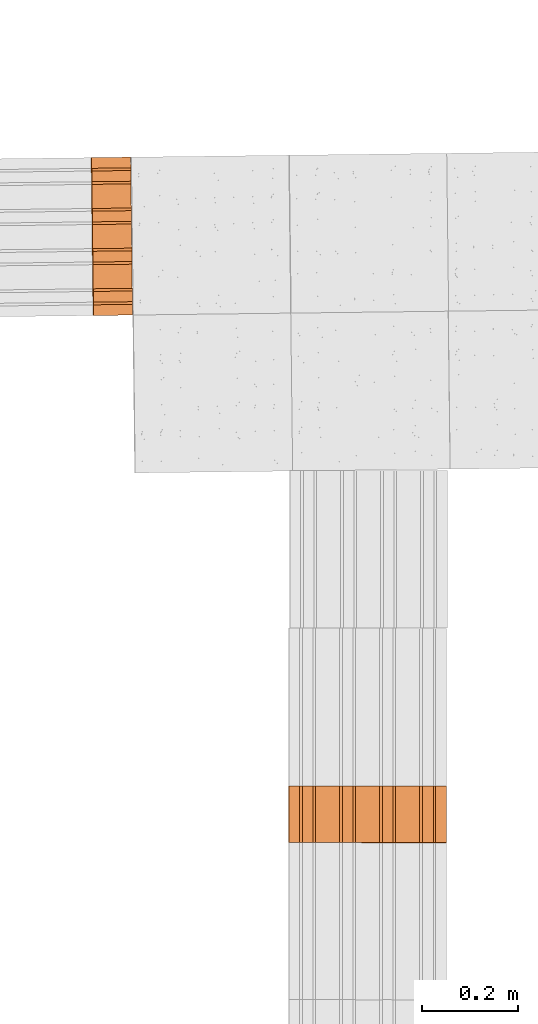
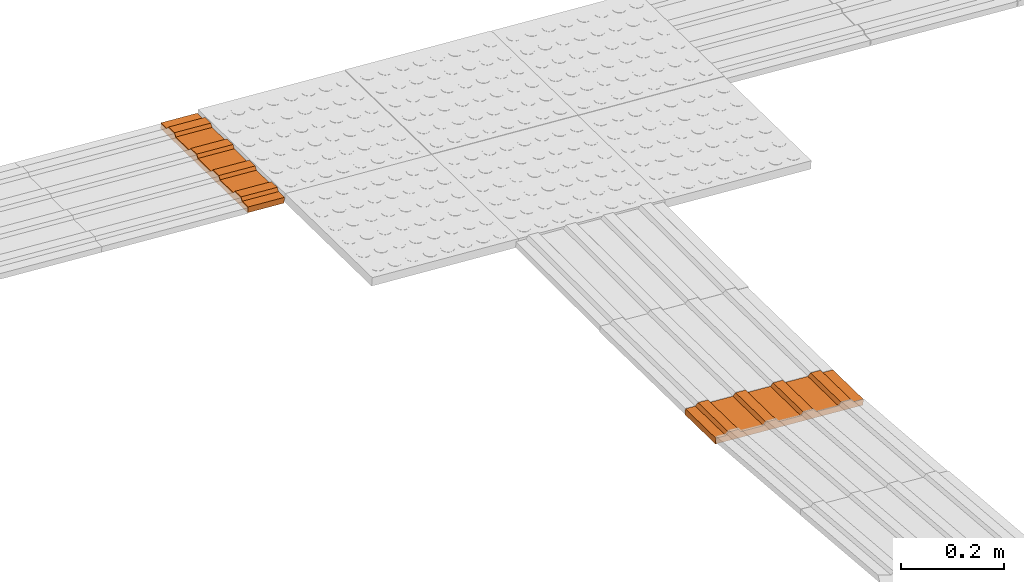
# One storey, part 237 of 237: 2 proxies.
"""IFC2X3 building model written with IfcOpenShell, lengths in millimetres."""

from ifc_helpers import new_model, entity, si_unit, converted_unit, derived_unit, money_unit, direction, frame, origin_with_axes, place, context, subcontext, project, spatial, open_shell, surface_model, type_object, element, save


model = new_model("IFC2X3")

# Units and contexts
model_context = context("Model", 3, precision=0.01, world=origin_with_axes(), true_north=direction((0.0, 1.0)))
body_context = subcontext(model_context, "Body", "Model", "MODEL_VIEW")
ifc_project = project(units=[si_unit("LENGTHUNIT", "METRE", prefix="MILLI"), si_unit("AREAUNIT", "SQUARE_METRE"), si_unit("VOLUMEUNIT", "CUBIC_METRE"), converted_unit("PLANEANGLEUNIT", "DEGREE", entity("IfcPlaneAngleMeasure", 0.0174532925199), si_unit("PLANEANGLEUNIT", "RADIAN"), dimensions=[0, 0, 0, 0, 0, 0, 0]), money_unit("USD"), converted_unit("TIMEUNIT", "Year", entity("IfcTimeMeasure", 31556926.0), si_unit("TIMEUNIT", "SECOND"), dimensions=[0, 0, 1, 0, 0, 0, 0]), si_unit("MASSUNIT", "GRAM", prefix="KILO"), si_unit("THERMODYNAMICTEMPERATUREUNIT", "DEGREE_CELSIUS"), si_unit("LUMINOUSINTENSITYUNIT", "LUMEN"), si_unit("ENERGYUNIT", "JOULE", prefix="MEGA"), derived_unit("THERMALCONDUCTANCEUNIT", [(si_unit("POWERUNIT", "WATT"), 1), (si_unit("LENGTHUNIT", "METRE"), -1), (si_unit("THERMODYNAMICTEMPERATUREUNIT", "KELVIN"), -1)]), derived_unit("SPECIFICHEATCAPACITYUNIT", [(si_unit("ENERGYUNIT", "JOULE"), 1), (si_unit("MASSUNIT", "GRAM", prefix="KILO"), -1), (si_unit("THERMODYNAMICTEMPERATUREUNIT", "KELVIN"), -1)]), derived_unit("MASSDENSITYUNIT", [(si_unit("MASSUNIT", "GRAM", prefix="KILO"), 1), (si_unit("VOLUMEUNIT", "CUBIC_METRE"), -1)])], contexts=[model_context])

# Site, building, storey
site_placement = place(None, origin_with_axes())
site = spatial("IfcSite", under=ifc_project, at=site_placement, Name="Local", CompositionType="ELEMENT")
building_placement = place(site_placement, origin_with_axes())
building = spatial("IfcBuilding", under=site, at=building_placement, Name="Construção", CompositionType="ELEMENT")
storey_placement = place(building_placement, origin_with_axes())
storey = spatial("IfcBuildingStorey", under=building, at=storey_placement, Name="Pavimento Térreo", CompositionType="ELEMENT", Elevation=0.0)

# Proxies
building_element_proxy_type = type_object("IfcBuildingElementProxyType", Name="Piso Direcional 27", PredefinedType="NOTDEFINED")
proxy_1_placement = place(storey_placement, frame((134864.10866, 37684.4578744, -8089.45606841), z_axis=(0.0, 0.0, 1.0), x_axis=(-0.999926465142, -0.012127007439, 0.0)))
element("IfcBuildingElementProxy", 1, at=proxy_1_placement, inside=storey, type_object=building_element_proxy_type, Name="Objeto-0055", context=body_context, shape_type="SurfaceModel", body=[
    surface_model("IfcShellBasedSurfaceModel", [(-0.316074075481, -47.2697775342, 4.01610191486), (81.3959811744, -47.2697775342, 10.4469801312), (80.8729205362, -41.67518994, 17.0930956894), (-0.839134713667, -41.67518994, 10.6622174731)], [open_shell([[[0, 1, 2, 3]]])]),
    surface_model("IfcShellBasedSurfaceModel", [(82.4421024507, -153.566941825, -2.84525098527), (82.4421024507, 176.513726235, -2.84525098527), (81.3959811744, 176.513726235, 10.4469801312), (81.3959811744, 154.135375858, 10.4469801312), (80.8729205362, 148.540788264, 17.0930956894), (80.8729205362, 126.162437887, 17.0930956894), (81.3959811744, 120.567850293, 10.4469801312), (81.3959811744, 70.2165619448, 10.4469801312), (80.8729205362, 64.6219743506, 17.0930956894), (80.8729205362, 42.2436239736, 17.0930956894), (81.3959811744, 36.6490363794, 10.4469801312), (81.3959811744, -13.7022519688, 10.4469801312), (80.8729205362, -19.296839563, 17.0930956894), (80.8729205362, -41.67518994, 17.0930956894), (81.3959811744, -47.2697775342, 10.4469801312), (81.3959811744, -97.6210658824, 10.4469801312), (80.8729205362, -103.215653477, 17.0930956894), (80.8729205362, -125.594003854, 17.0930956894), (81.3959811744, -131.188591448, 10.4469801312), (81.3959811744, -153.566941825, 10.4469801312)], [open_shell([[[0, 1, 2, 3, 4, 5, 6, 7, 8, 9, 10, 11, 12, 13, 14, 15, 16, 17, 18, 19]]])]),
    surface_model("IfcShellBasedSurfaceModel", [(-0.839134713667, -19.296839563, 10.6622174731), (80.8729205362, -19.296839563, 17.0930956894), (81.3959811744, -13.7022519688, 10.4469801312), (-0.316074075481, -13.7022519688, 4.01610191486)], [open_shell([[[0, 1, 2, 3]]])]),
    surface_model("IfcShellBasedSurfaceModel", [(-0.839134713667, -103.215653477, 10.6622174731), (80.8729205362, -103.215653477, 17.0930956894), (81.3959811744, -97.6210658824, 10.4469801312), (-0.316074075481, -97.6210658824, 4.01610191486)], [open_shell([[[0, 1, 2, 3]]])]),
    surface_model("IfcShellBasedSurfaceModel", [(-0.839134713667, 64.6219743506, 10.6622174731), (80.8729205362, 64.6219743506, 17.0930956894), (81.3959811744, 70.2165619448, 10.4469801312), (-0.316074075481, 70.2165619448, 4.01610191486)], [open_shell([[[0, 1, 2, 3]]])]),
    surface_model("IfcShellBasedSurfaceModel", [(-0.316074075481, 36.6490363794, 4.01610191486), (81.3959811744, 36.6490363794, 10.4469801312), (80.8729205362, 42.2436239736, 17.0930956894), (-0.839134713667, 42.2436239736, 10.6622174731)], [open_shell([[[0, 1, 2, 3]]])]),
    surface_model("IfcShellBasedSurfaceModel", [(-0.316074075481, -131.188591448, 4.01610191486), (81.3959811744, -131.188591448, 10.4469801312), (80.8729205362, -125.594003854, 17.0930956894), (-0.839134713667, -125.594003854, 10.6622174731)], [open_shell([[[0, 1, 2, 3]]])]),
    surface_model("IfcShellBasedSurfaceModel", [(-0.316074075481, 176.513726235, 4.01610191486), (-0.316074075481, 154.135375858, 4.01610191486), (81.3959811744, 154.135375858, 10.4469801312), (81.3959811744, 176.513726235, 10.4469801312)], [open_shell([[[0, 1, 2, 3]]])]),
    surface_model("IfcShellBasedSurfaceModel", [(-0.316074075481, 120.567850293, 4.01610191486), (81.3959811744, 120.567850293, 10.4469801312), (80.8729205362, 126.162437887, 17.0930956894), (-0.839134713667, 126.162437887, 10.6622174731)], [open_shell([[[0, 1, 2, 3]]])]),
    surface_model("IfcShellBasedSurfaceModel", [(-0.839134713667, 148.540788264, 10.6622174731), (80.8729205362, 148.540788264, 17.0930956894), (81.3959811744, 154.135375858, 10.4469801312), (-0.316074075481, 154.135375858, 4.01610191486)], [open_shell([[[0, 1, 2, 3]]])]),
    surface_model("IfcShellBasedSurfaceModel", [(-0.316074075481, 36.6490363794, 4.01610191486), (-0.316074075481, -13.7022519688, 4.01610191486), (81.3959811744, -13.7022519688, 10.4469801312), (81.3959811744, 36.6490363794, 10.4469801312)], [open_shell([[[0, 1, 2, 3]]])]),
    surface_model("IfcShellBasedSurfaceModel", [(-0.316074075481, 120.567850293, 4.01610191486), (-0.316074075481, 70.2165619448, 4.01610191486), (81.3959811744, 70.2165619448, 10.4469801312), (81.3959811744, 120.567850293, 10.4469801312)], [open_shell([[[0, 1, 2, 3]]])]),
    surface_model("IfcShellBasedSurfaceModel", [(-0.839134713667, 148.540788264, 10.6622174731), (-0.839134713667, 126.162437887, 10.6622174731), (80.8729205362, 126.162437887, 17.0930956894), (80.8729205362, 148.540788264, 17.0930956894)], [open_shell([[[0, 1, 2, 3]]])]),
    surface_model("IfcShellBasedSurfaceModel", [(-0.316074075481, 120.567850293, 4.01610191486), (-0.839134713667, 126.162437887, 10.6622174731), (-0.839134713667, 148.540788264, 10.6622174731), (-0.316074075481, 154.135375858, 4.01610191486), (-0.316074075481, 176.513726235, 4.01610191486), (0.73004720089, 176.513726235, -9.27612920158), (0.73004720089, -153.566941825, -9.27612920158), (-0.316074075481, -153.566941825, 4.01610191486), (-0.316074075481, -131.188591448, 4.01610191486), (-0.839134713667, -125.594003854, 10.6622174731), (-0.839134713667, -103.215653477, 10.6622174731), (-0.316074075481, -97.6210658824, 4.01610191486), (-0.316074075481, -47.2697775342, 4.01610191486), (-0.839134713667, -41.67518994, 10.6622174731), (-0.839134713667, -19.296839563, 10.6622174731), (-0.316074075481, -13.7022519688, 4.01610191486), (-0.316074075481, 36.6490363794, 4.01610191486), (-0.839134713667, 42.2436239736, 10.6622174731), (-0.839134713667, 64.6219743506, 10.6622174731), (-0.316074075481, 70.2165619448, 4.01610191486)], [open_shell([[[0, 1, 2, 3, 4, 5, 6, 7, 8, 9, 10, 11, 12, 13, 14, 15, 16, 17, 18, 19]]])]),
    surface_model("IfcShellBasedSurfaceModel", [(80.8729205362, -41.67518994, 17.0930956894), (80.8729205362, -19.296839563, 17.0930956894), (-0.839134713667, -19.296839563, 10.6622174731), (-0.839134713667, -41.67518994, 10.6622174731)], [open_shell([[[0, 1, 2, 3]]])]),
    surface_model("IfcShellBasedSurfaceModel", [(-0.316074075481, -47.2697775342, 4.01610191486), (-0.316074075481, -97.6210658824, 4.01610191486), (81.3959811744, -97.6210658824, 10.4469801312), (81.3959811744, -47.2697775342, 10.4469801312)], [open_shell([[[0, 1, 2, 3]]])]),
    surface_model("IfcShellBasedSurfaceModel", [(80.8729205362, 42.2436239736, 17.0930956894), (80.8729205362, 64.6219743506, 17.0930956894), (-0.839134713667, 64.6219743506, 10.6622174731), (-0.839134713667, 42.2436239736, 10.6622174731)], [open_shell([[[0, 1, 2, 3]]])]),
    surface_model("IfcShellBasedSurfaceModel", [(80.8729205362, -125.594003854, 17.0930956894), (80.8729205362, -103.215653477, 17.0930956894), (-0.839134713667, -103.215653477, 10.6622174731), (-0.839134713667, -125.594003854, 10.6622174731)], [open_shell([[[0, 1, 2, 3]]])]),
    surface_model("IfcShellBasedSurfaceModel", [(82.4421024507, 176.513726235, -2.84525098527), (0.73004720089, 176.513726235, -9.27612920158), (-0.316074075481, 176.513726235, 4.01610191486), (81.3959811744, 176.513726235, 10.4469801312)], [open_shell([[[0, 1, 2, 3]]])]),
    surface_model("IfcShellBasedSurfaceModel", [(82.4421024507, -153.566941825, -2.84525098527), (0.73004720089, -153.566941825, -9.27612920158), (0.73004720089, 176.513726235, -9.27612920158), (82.4421024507, 176.513726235, -2.84525098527)], [open_shell([[[0, 1, 2, 3]]])]),
    surface_model("IfcShellBasedSurfaceModel", [(81.3959811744, -153.566941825, 10.4469801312), (81.3959811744, -131.188591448, 10.4469801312), (-0.316074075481, -131.188591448, 4.01610191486), (-0.316074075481, -153.566941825, 4.01610191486)], [open_shell([[[0, 1, 2, 3]]])]),
    surface_model("IfcShellBasedSurfaceModel", [(0.73004720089, -153.566941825, -9.27612920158), (82.4421024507, -153.566941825, -2.84525098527), (81.3959811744, -153.566941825, 10.4469801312), (-0.316074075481, -153.566941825, 4.01610191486)], [open_shell([[[0, 1, 2, 3]]])]),
])
proxy_2_placement = place(storey_placement, frame((135346.086311, 36523.4911458, -8116.8838168), z_axis=(0.0, 0.0, 1.0), x_axis=(0.0, -1.0, 0.0)))
element("IfcBuildingElementProxy", 2, at=proxy_2_placement, inside=storey, type_object=building_element_proxy_type, Name="Objeto-0055", context=body_context, shape_type="SurfaceModel", body=[
    surface_model("IfcShellBasedSurfaceModel", [(-0.132775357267, -46.8620912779, 7.31406931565), (118.018314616, -46.8620912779, 9.45891543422), (117.904688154, -40.8174525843, 15.7181478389), (-0.24640181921, -40.8174525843, 13.5733017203)], [open_shell([[[0, 1, 2, 3]]])]),
    surface_model("IfcShellBasedSurfaceModel", [(118.125179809, -153.804492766, 3.57213456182), (118.54299605, 175.39164382, -19.4437096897), (118.301579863, 176.321730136, -6.14504677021), (118.273253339, 154.003347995, -4.58465054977), (118.145463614, 148.888795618, 2.45477996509), (118.117137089, 126.570413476, 4.01517618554), (118.230763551, 120.525774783, -2.2440562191), (118.167028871, 70.3094149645, 1.26683527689), (118.039239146, 65.1948625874, 8.30626579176), (118.010912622, 42.876480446, 9.8666620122), (118.124539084, 36.8318417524, 3.60742960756), (118.060804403, -13.3845180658, 7.11832110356), (117.933014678, -18.4990704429, 14.1577516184), (117.904688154, -40.8174525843, 15.7181478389), (118.018314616, -46.8620912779, 9.45891543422), (117.954579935, -97.0784510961, 12.9698069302), (117.826790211, -102.193003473, 20.0092374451), (117.798463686, -124.511385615, 21.5696336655), (117.912090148, -130.556024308, 15.3104012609), (117.883763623, -152.87440645, 16.8707974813)], [open_shell([[[0, 1, 2, 3, 4, 5, 6, 7, 8, 9, 10, 11, 12, 13, 14, 15, 16, 17, 18, 19]]])]),
    surface_model("IfcShellBasedSurfaceModel", [(-0.218075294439, -18.4990704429, 12.0129054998), (117.933014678, -18.4990704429, 14.1577516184), (118.060804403, -13.3845180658, 7.11832110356), (-0.0902855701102, -13.3845180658, 4.97347498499)], [open_shell([[[0, 1, 2, 3]]])]),
    surface_model("IfcShellBasedSurfaceModel", [(-0.32429976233, -102.193003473, 17.8643913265), (117.826790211, -102.193003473, 20.0092374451), (117.954579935, -97.0784510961, 12.9698069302), (-0.196510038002, -97.0784510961, 10.8249608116)], [open_shell([[[0, 1, 2, 3]]])]),
    surface_model("IfcShellBasedSurfaceModel", [(-0.111850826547, 65.1948625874, 6.16141967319), (118.039239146, 65.1948625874, 8.30626579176), (118.167028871, 70.3094149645, 1.26683527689), (0.0159388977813, 70.3094149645, -0.878010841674)], [open_shell([[[0, 1, 2, 3]]])]),
    surface_model("IfcShellBasedSurfaceModel", [(-0.0265508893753, 36.8318417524, 1.46258348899), (118.124539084, 36.8318417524, 3.60742960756), (118.010912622, 42.876480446, 9.8666620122), (-0.140177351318, 42.876480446, 7.72181589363)], [open_shell([[[0, 1, 2, 3]]])]),
    surface_model("IfcShellBasedSurfaceModel", [(-0.238999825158, -130.556024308, 13.1655551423), (117.912090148, -130.556024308, 15.3104012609), (117.798463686, -124.511385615, 21.5696336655), (-0.352626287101, -124.511385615, 19.424787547)], [open_shell([[[0, 1, 2, 3]]])]),
    surface_model("IfcShellBasedSurfaceModel", [(0.150489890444, 176.321730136, -8.28989288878), (0.122163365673, 154.003347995, -6.72949666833), (118.273253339, 154.003347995, -4.58465054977), (118.301579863, 176.321730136, -6.14504677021)], [open_shell([[[0, 1, 2, 3]]])]),
    surface_model("IfcShellBasedSurfaceModel", [(0.0796735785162, 120.525774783, -4.38890233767), (118.230763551, 120.525774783, -2.2440562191), (118.117137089, 126.570413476, 4.01517618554), (-0.0339528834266, 126.570413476, 1.87033006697)], [open_shell([[[0, 1, 2, 3]]])]),
    surface_model("IfcShellBasedSurfaceModel", [(-0.00562635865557, 148.888795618, 0.309933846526), (118.145463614, 148.888795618, 2.45477996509), (118.273253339, 154.003347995, -4.58465054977), (0.122163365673, 154.003347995, -6.72949666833)], [open_shell([[[0, 1, 2, 3]]])]),
    surface_model("IfcShellBasedSurfaceModel", [(-0.0265508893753, 36.8318417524, 1.46258348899), (-0.0902855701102, -13.3845180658, 4.97347498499), (118.060804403, -13.3845180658, 7.11832110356), (118.124539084, 36.8318417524, 3.60742960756)], [open_shell([[[0, 1, 2, 3]]])]),
    surface_model("IfcShellBasedSurfaceModel", [(0.0796735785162, 120.525774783, -4.38890233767), (0.0159388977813, 70.3094149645, -0.878010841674), (118.167028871, 70.3094149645, 1.26683527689), (118.230763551, 120.525774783, -2.2440562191)], [open_shell([[[0, 1, 2, 3]]])]),
    surface_model("IfcShellBasedSurfaceModel", [(-0.00562635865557, 148.888795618, 0.309933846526), (-0.0339528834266, 126.570413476, 1.87033006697), (118.117137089, 126.570413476, 4.01517618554), (118.145463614, 148.888795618, 2.45477996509)], [open_shell([[[0, 1, 2, 3]]])]),
    surface_model("IfcShellBasedSurfaceModel", [(0.0796735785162, 120.525774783, -4.38890233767), (-0.0339528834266, 126.570413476, 1.87033006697), (-0.00562635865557, 148.888795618, 0.309933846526), (0.122163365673, 154.003347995, -6.72949666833), (0.150489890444, 176.321730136, -8.28989288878), (0.391906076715, 175.39164382, -21.5885558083), (-0.0259101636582, -153.804492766, 1.42728844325), (-0.267326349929, -152.87440645, 14.7259513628), (-0.238999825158, -130.556024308, 13.1655551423), (-0.352626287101, -124.511385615, 19.424787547), (-0.32429976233, -102.193003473, 17.8643913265), (-0.196510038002, -97.0784510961, 10.8249608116), (-0.132775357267, -46.8620912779, 7.31406931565), (-0.24640181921, -40.8174525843, 13.5733017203), (-0.218075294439, -18.4990704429, 12.0129054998), (-0.0902855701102, -13.3845180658, 4.97347498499), (-0.0265508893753, 36.8318417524, 1.46258348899), (-0.140177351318, 42.876480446, 7.72181589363), (-0.111850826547, 65.1948625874, 6.16141967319), (0.0159388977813, 70.3094149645, -0.878010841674)], [open_shell([[[0, 1, 2, 3, 4, 5, 6, 7, 8, 9, 10, 11, 12, 13, 14, 15, 16, 17, 18, 19]]])]),
    surface_model("IfcShellBasedSurfaceModel", [(117.904688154, -40.8174525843, 15.7181478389), (117.933014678, -18.4990704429, 14.1577516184), (-0.218075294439, -18.4990704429, 12.0129054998), (-0.24640181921, -40.8174525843, 13.5733017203)], [open_shell([[[0, 1, 2, 3]]])]),
    surface_model("IfcShellBasedSurfaceModel", [(-0.132775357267, -46.8620912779, 7.31406931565), (-0.196510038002, -97.0784510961, 10.8249608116), (117.954579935, -97.0784510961, 12.9698069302), (118.018314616, -46.8620912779, 9.45891543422)], [open_shell([[[0, 1, 2, 3]]])]),
    surface_model("IfcShellBasedSurfaceModel", [(118.010912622, 42.876480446, 9.8666620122), (118.039239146, 65.1948625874, 8.30626579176), (-0.111850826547, 65.1948625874, 6.16141967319), (-0.140177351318, 42.876480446, 7.72181589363)], [open_shell([[[0, 1, 2, 3]]])]),
    surface_model("IfcShellBasedSurfaceModel", [(117.798463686, -124.511385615, 21.5696336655), (117.826790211, -102.193003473, 20.0092374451), (-0.32429976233, -102.193003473, 17.8643913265), (-0.352626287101, -124.511385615, 19.424787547)], [open_shell([[[0, 1, 2, 3]]])]),
    surface_model("IfcShellBasedSurfaceModel", [(118.54299605, 175.39164382, -19.4437096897), (0.391906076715, 175.39164382, -21.5885558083), (0.150489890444, 176.321730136, -8.28989288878), (118.301579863, 176.321730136, -6.14504677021)], [open_shell([[[0, 1, 2, 3]]])]),
    surface_model("IfcShellBasedSurfaceModel", [(118.125179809, -153.804492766, 3.57213456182), (-0.0259101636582, -153.804492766, 1.42728844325), (0.391906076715, 175.39164382, -21.5885558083), (118.54299605, 175.39164382, -19.4437096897)], [open_shell([[[0, 1, 2, 3]]])]),
    surface_model("IfcShellBasedSurfaceModel", [(117.883763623, -152.87440645, 16.8707974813), (117.912090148, -130.556024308, 15.3104012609), (-0.238999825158, -130.556024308, 13.1655551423), (-0.267326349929, -152.87440645, 14.7259513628)], [open_shell([[[0, 1, 2, 3]]])]),
    surface_model("IfcShellBasedSurfaceModel", [(-0.0259101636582, -153.804492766, 1.42728844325), (118.125179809, -153.804492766, 3.57213456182), (117.883763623, -152.87440645, 16.8707974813), (-0.267326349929, -152.87440645, 14.7259513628)], [open_shell([[[0, 1, 2, 3]]])]),
])

save(model, "model.ifc")
